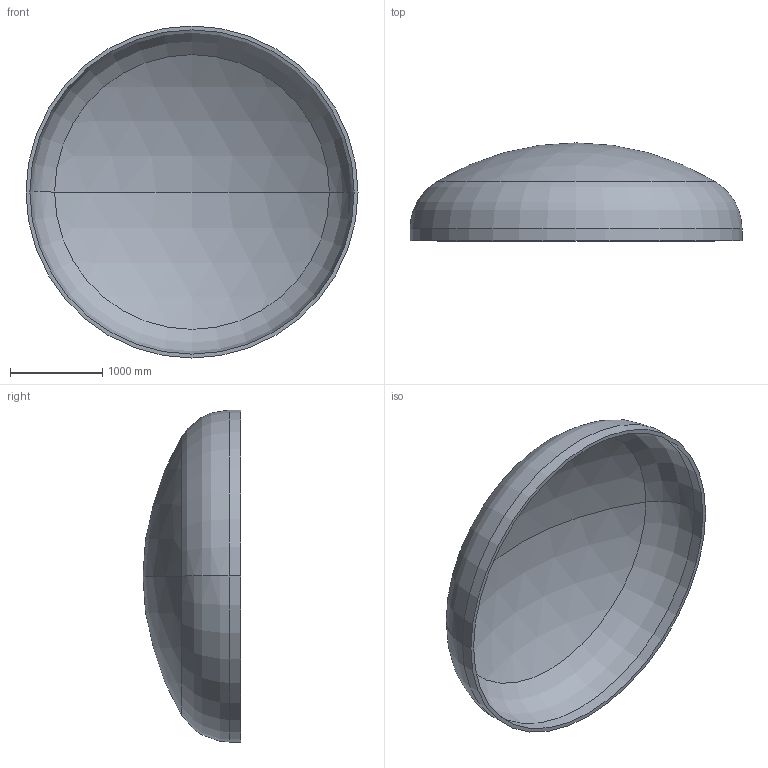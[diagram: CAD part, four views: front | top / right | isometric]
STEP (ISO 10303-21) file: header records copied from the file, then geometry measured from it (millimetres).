
FILE_DESCRIPTION (( 'STEP AP203' ), '1' );
FILE_NAME ('DIN 28013 Korbbogenform_-_Boden DIN 28013 - 3600 x 130 - I - s=42.step', '2016-07-01T20:26:01', ( '' ), ( '' ), 'SwSTEP 2.0', 'SolidWorks 2013', '' );
FILE_SCHEMA (( 'CONFIG_CONTROL_DESIGN' ));
Length unit declared in the file: millimetre
Products named in the file (1): DIN 28013 Korbbogenform_-_Boden DIN 28013 - 3600 x 130 - I - s=42
Bounding box: 3600 x 1062.42 x 3600 mm (x, y, z)
Volume: 644183247.4 mm3; surface area: 31148543.3 mm2
Topology: 1 solids, 1 shells, 13 faces, 24 edges, 14 vertices
Faces by surface type: torus 4, cylinder 4, sphere 4, plane 1
Entity records: 407 total; most frequent: DIRECTION 72, CARTESIAN_POINT 52, ORIENTED_EDGE 48, AXIS2_PLACEMENT_3D 34, EDGE_CURVE 24, CIRCLE 20, VERTEX_POINT 14, EDGE_LOOP 14
